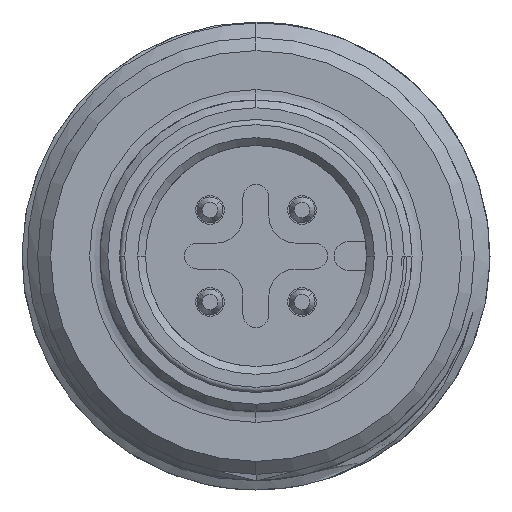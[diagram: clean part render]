
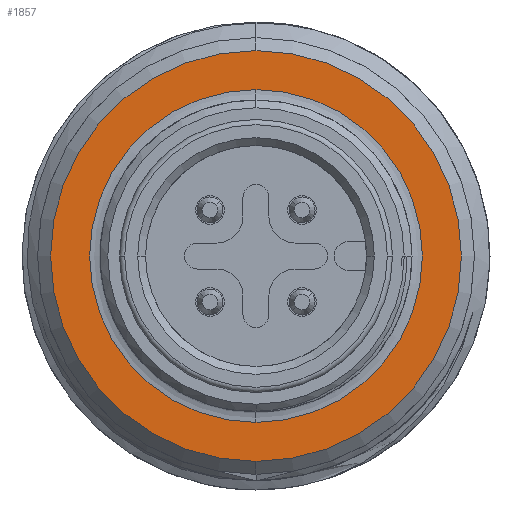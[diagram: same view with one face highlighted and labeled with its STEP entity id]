
A CAD part, left-side view. The second image highlights one B-rep face of the part: STEP entity #1857.
In plain terms, the highlighted planar face has unit normal (-1, 0, 0).
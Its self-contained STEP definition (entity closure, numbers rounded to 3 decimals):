
#13 = EDGE_CURVE ( 'NONE', #453, #9786, #3880, .T. ) ;
#453 = VERTEX_POINT ( 'NONE', #11133 ) ;
#527 = ORIENTED_EDGE ( 'NONE', *, *, #5990, .T. ) ;
#564 = AXIS2_PLACEMENT_3D ( 'NONE', #9692, #13197, #8821 ) ;
#654 = DIRECTION ( 'NONE',  ( -1., 0., 0. ) ) ;
#937 = PLANE ( 'NONE',  #5886 ) ;
#1857 = ADVANCED_FACE ( 'NONE', ( #8610, #13942 ), #937, .T. ) ;
#2014 = CARTESIAN_POINT ( 'NONE',  ( -26.648, 1.986, 35.87 ) ) ;
#2420 = CIRCLE ( 'NONE', #6382, 6.4 ) ;
#2989 = DIRECTION ( 'NONE',  ( 0., 0., 1. ) ) ;
#3880 = CIRCLE ( 'NONE', #5513, 7.9 ) ;
#4165 = DIRECTION ( 'NONE',  ( 0., 0., 1. ) ) ;
#4303 = CARTESIAN_POINT ( 'NONE',  ( -26.648, 1.986, 43.77 ) ) ;
#4430 = DIRECTION ( 'NONE',  ( 0., 0., 1. ) ) ;
#5109 = CARTESIAN_POINT ( 'NONE',  ( -26.648, 1.986, 35.87 ) ) ;
#5513 = AXIS2_PLACEMENT_3D ( 'NONE', #10586, #9502, #4165 ) ;
#5886 = AXIS2_PLACEMENT_3D ( 'NONE', #5109, #654, #2989 ) ;
#5983 = EDGE_LOOP ( 'NONE', ( #12869, #8405 ) ) ;
#5990 = EDGE_CURVE ( 'NONE', #9786, #453, #12452, .T. ) ;
#6382 = AXIS2_PLACEMENT_3D ( 'NONE', #2014, #7633, #4430 ) ;
#6412 = CARTESIAN_POINT ( 'NONE',  ( -26.648, 1.986, 42.27 ) ) ;
#6506 = VERTEX_POINT ( 'NONE', #10699 ) ;
#6630 = EDGE_CURVE ( 'NONE', #9677, #6506, #2420, .T. ) ;
#7584 = DIRECTION ( 'NONE',  ( 0., 0., 1. ) ) ;
#7633 = DIRECTION ( 'NONE',  ( 1., 0., 0. ) ) ;
#7854 = EDGE_LOOP ( 'NONE', ( #8158, #527 ) ) ;
#8158 = ORIENTED_EDGE ( 'NONE', *, *, #13, .T. ) ;
#8405 = ORIENTED_EDGE ( 'NONE', *, *, #12509, .T. ) ;
#8610 = FACE_BOUND ( 'NONE', #5983, .T. ) ;
#8821 = DIRECTION ( 'NONE',  ( 0., 0., 1. ) ) ;
#8983 = AXIS2_PLACEMENT_3D ( 'NONE', #10149, #11237, #7584 ) ;
#9502 = DIRECTION ( 'NONE',  ( -1., 0., 0. ) ) ;
#9677 = VERTEX_POINT ( 'NONE', #6412 ) ;
#9692 = CARTESIAN_POINT ( 'NONE',  ( -26.648, 1.986, 35.87 ) ) ;
#9786 = VERTEX_POINT ( 'NONE', #4303 ) ;
#10149 = CARTESIAN_POINT ( 'NONE',  ( -26.648, 1.986, 35.87 ) ) ;
#10586 = CARTESIAN_POINT ( 'NONE',  ( -26.648, 1.986, 35.87 ) ) ;
#10699 = CARTESIAN_POINT ( 'NONE',  ( -26.648, 1.986, 29.47 ) ) ;
#11133 = CARTESIAN_POINT ( 'NONE',  ( -26.648, 1.986, 27.97 ) ) ;
#11237 = DIRECTION ( 'NONE',  ( 1., 0., 0. ) ) ;
#12002 = CIRCLE ( 'NONE', #8983, 6.4 ) ;
#12452 = CIRCLE ( 'NONE', #564, 7.9 ) ;
#12509 = EDGE_CURVE ( 'NONE', #6506, #9677, #12002, .T. ) ;
#12869 = ORIENTED_EDGE ( 'NONE', *, *, #6630, .T. ) ;
#13197 = DIRECTION ( 'NONE',  ( -1., 0., 0. ) ) ;
#13942 = FACE_OUTER_BOUND ( 'NONE', #7854, .T. ) ;
